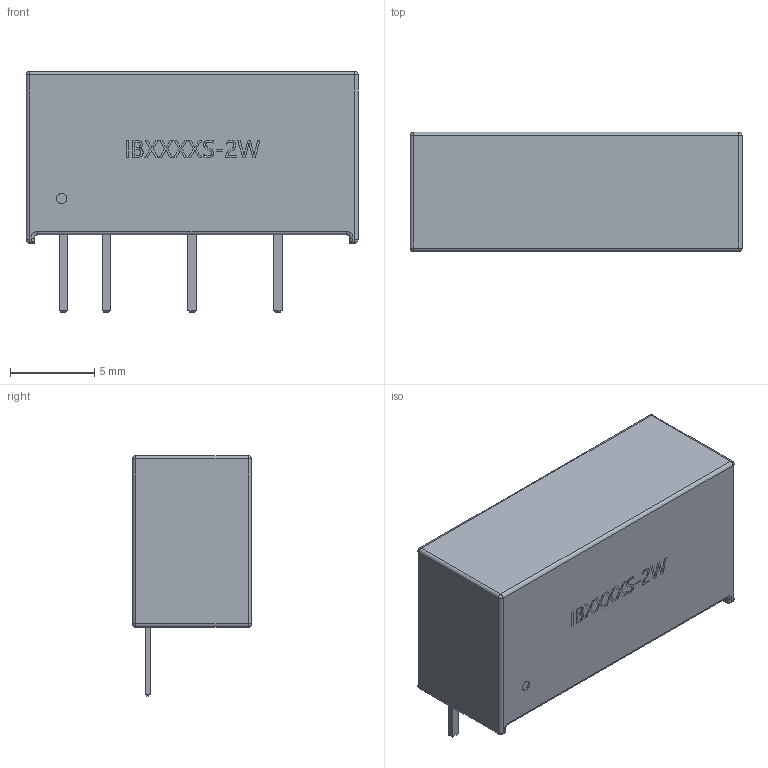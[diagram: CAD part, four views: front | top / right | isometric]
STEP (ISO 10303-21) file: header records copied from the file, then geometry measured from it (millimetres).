
FILE_DESCRIPTION (( 'STEP AP214' ), '1' );
FILE_NAME ('PWRM-TH_IBXXXXS-2W.step', '2022-07-09T11:32:48', ( '' ), ( '' ), 'SwSTEP 2.0', 'SolidWorks 2020', '' );
FILE_SCHEMA (( 'AUTOMOTIVE_DESIGN' ));
Length unit declared in the file: millimetre
Products named in the file (1): PWRM-TH_IBXXXXS-2W
Bounding box: 19.65 x 7.06 x 14.26 mm (x, y, z)
Volume: 1343.3 mm3; surface area: 823.8 mm2
Topology: 1 solids, 1 shells, 523 faces, 1390 edges, 904 vertices
Faces by surface type: plane 325, bspline 162, cylinder 24, sphere 8, torus 4
Entity records: 22615 total; most frequent: CARTESIAN_POINT 7320, ORIENTED_EDGE 2764, DIRECTION 1818, EDGE_CURVE 1382, VECTOR 1006, LINE 1006, VERTEX_POINT 904, EDGE_LOOP 566
